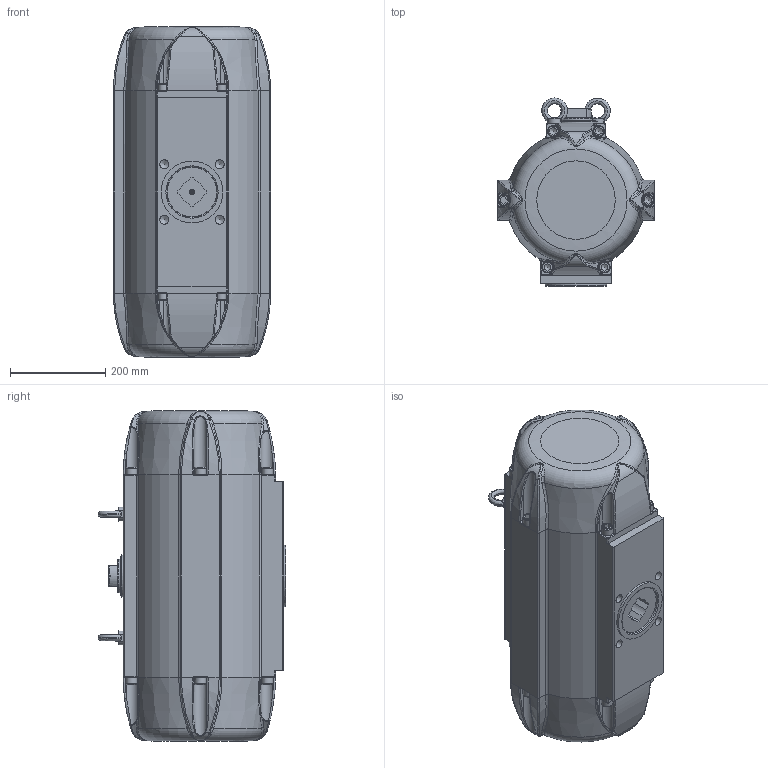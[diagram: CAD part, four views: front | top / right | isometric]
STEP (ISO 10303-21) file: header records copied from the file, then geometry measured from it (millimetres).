
FILE_DESCRIPTION(/* description */ (''),/* implementation_level */ '2;1');
FILE_NAME(/* name */ 'C:\Users\war\Desktop\BR03C_SAF_45.stp',/* time_stamp */ '2021-05-05T11:02:40+02:00',/* author */ ('war'),/* organization */ (''),/* preprocessor_version */ 'ST-DEVELOPER v18.1',/* originating_system */ 'Autodesk Inventor 2021',/* authorisation */ '');
FILE_SCHEMA (('AUTOMOTIVE_DESIGN { 1 0 10303 214 3 1 1 }'));
Products named in the file (1): ENG-067806_Shrinkwrap_1
Bounding box: 330 x 395 x 695 mm (x, y, z)
Volume: 23380977.3 mm3; surface area: 2550453.8 mm2
Topology: 1 solids, 1 shells, 2331 faces, 6004 edges, 3710 vertices
Faces by surface type: bspline 619, cylinder 613, plane 506, torus 428, cone 121, sphere 44
Full cylindrical faces by diameter (mm): 3 x2, 4.134 x4, 4.917 x5, 10 x2, 10.106 x1, 16 x2, 18.376 x4, 18.631 x2, 24 x12, 40 x4, 40.3 x10, 42 x2, 44 x4, 44.1 x2, 47.6 x4, 60.1 x2, 63.1 x1, 65 x2, 66 x1, 69.8 x3, 70 x2, 70.1 x1, 80 x1, 85 x1, 90 x1, 99.1 x1, 101 x1, 105.8 x3, 106 x1, 130 x1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
Entity records: 102230 total; most frequent: CARTESIAN_POINT 47869, ORIENTED_EDGE 11852, DIRECTION 9520, EDGE_CURVE 5926, AXIS2_PLACEMENT_3D 4024, VERTEX_POINT 3710, EDGE_LOOP 2466, STYLED_ITEM 2332
